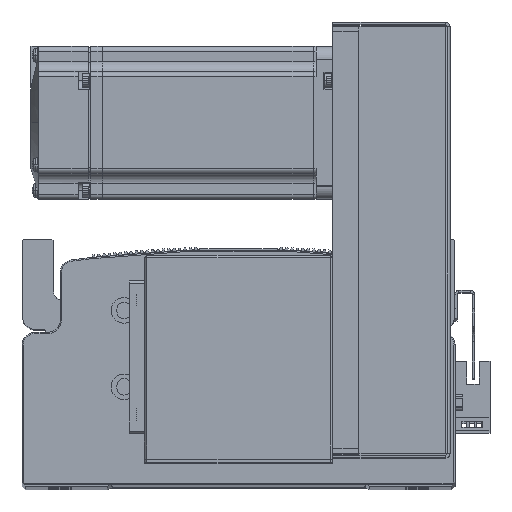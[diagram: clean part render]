
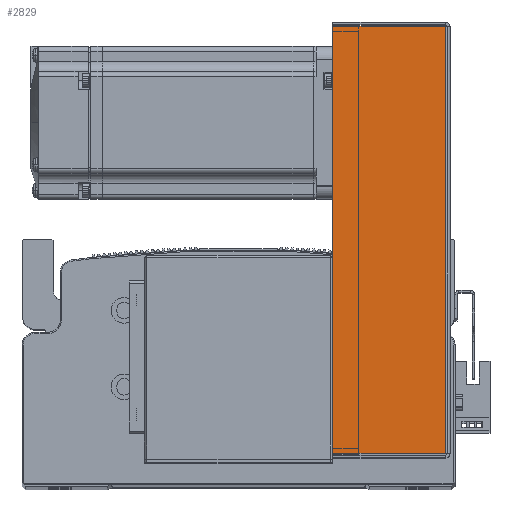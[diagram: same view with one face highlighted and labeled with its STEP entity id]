
A CAD part, top view. The second image highlights one B-rep face of the part: STEP entity #2829.
In plain terms, the highlighted planar face has unit normal (0, 0, 1).
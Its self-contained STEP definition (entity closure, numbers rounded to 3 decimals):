
#265 = DIRECTION ( 'NONE',  ( -1., 0., 0. ) ) ;
#285 = PLANE ( 'NONE',  #67975 ) ;
#287 = DIRECTION ( 'NONE',  ( 0., 0., -1. ) ) ;
#321 = CARTESIAN_POINT ( 'NONE',  ( 0., 0., 40.5 ) ) ;
#2829 = ADVANCED_FACE ( 'NONE', ( #79330 ), #285, .F. ) ;
#25600 = EDGE_CURVE ( 'NONE', #56990, #56953, #56076, .T. ) ;
#25632 = EDGE_CURVE ( 'NONE', #56990, #56964, #56069, .T. ) ;
#25634 = EDGE_CURVE ( 'NONE', #56964, #56972, #56047, .T. ) ;
#25662 = EDGE_CURVE ( 'NONE', #56953, #56972, #56077, .T. ) ;
#26444 = EDGE_LOOP ( 'NONE', ( #78400, #78380, #78361, #78405 ) ) ;
#47800 = CARTESIAN_POINT ( 'NONE',  ( 83.793, 0.737, 40.5 ) ) ;
#47810 = CARTESIAN_POINT ( 'NONE',  ( 83.793, 45., 40.5 ) ) ;
#47894 = CARTESIAN_POINT ( 'NONE',  ( -83.793, 0.737, 40.5 ) ) ;
#47907 = CARTESIAN_POINT ( 'NONE',  ( -83.793, 45., 40.5 ) ) ;
#52283 = DIRECTION ( 'NONE',  ( 0., 1., 0. ) ) ;
#52292 = DIRECTION ( 'NONE',  ( -1., 0., 0. ) ) ;
#52295 = DIRECTION ( 'NONE',  ( 0., 1., 0. ) ) ;
#52307 = CARTESIAN_POINT ( 'NONE',  ( 83.793, 0., 40.5 ) ) ;
#52314 = CARTESIAN_POINT ( 'NONE',  ( -83.793, 0., 40.5 ) ) ;
#53171 = CARTESIAN_POINT ( 'NONE',  ( -84.5, 45., 40.5 ) ) ;
#53174 = DIRECTION ( 'NONE',  ( -1., 0., 0. ) ) ;
#53191 = CARTESIAN_POINT ( 'NONE',  ( 0., 0.737, 40.5 ) ) ;
#56037 = VECTOR ( 'NONE', #53174, 1000. ) ;
#56038 = VECTOR ( 'NONE', #52283, 1000. ) ;
#56047 = LINE ( 'NONE', #53171, #56074 ) ;
#56055 = VECTOR ( 'NONE', #52295, 1000. ) ;
#56069 = LINE ( 'NONE', #52307, #56038 ) ;
#56074 = VECTOR ( 'NONE', #52292, 1000. ) ;
#56076 = LINE ( 'NONE', #53191, #56037 ) ;
#56077 = LINE ( 'NONE', #52314, #56055 ) ;
#56953 = VERTEX_POINT ( 'NONE', #47894 ) ;
#56964 = VERTEX_POINT ( 'NONE', #47810 ) ;
#56972 = VERTEX_POINT ( 'NONE', #47907 ) ;
#56990 = VERTEX_POINT ( 'NONE', #47800 ) ;
#67975 = AXIS2_PLACEMENT_3D ( 'NONE', #321, #287, #265 ) ;
#78361 = ORIENTED_EDGE ( 'NONE', *, *, #25634, .T. ) ;
#78380 = ORIENTED_EDGE ( 'NONE', *, *, #25632, .T. ) ;
#78400 = ORIENTED_EDGE ( 'NONE', *, *, #25600, .F. ) ;
#78405 = ORIENTED_EDGE ( 'NONE', *, *, #25662, .F. ) ;
#79330 = FACE_OUTER_BOUND ( 'NONE', #26444, .T. ) ;
